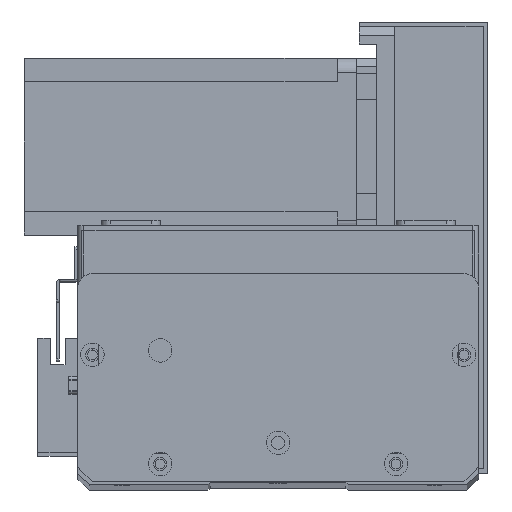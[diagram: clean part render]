
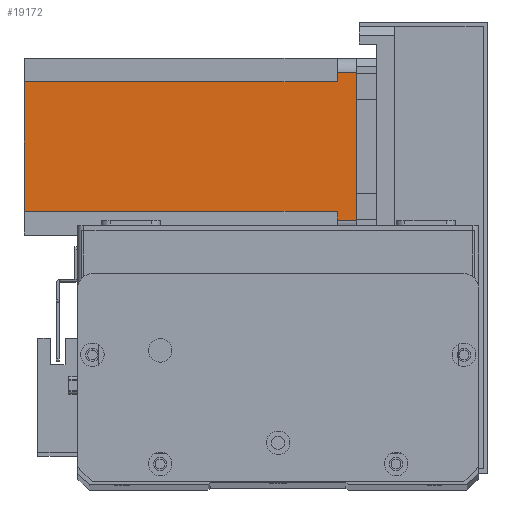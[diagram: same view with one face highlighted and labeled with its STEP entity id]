
A CAD part, top view. The second image highlights one B-rep face of the part: STEP entity #19172.
In plain terms, the highlighted planar face has unit normal (0, 0, 1) as drawn and (0, 1, 0) by its records, which use the part's own axes.
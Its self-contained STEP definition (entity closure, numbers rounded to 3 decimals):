
#778 = CARTESIAN_POINT ( 'NONE',  ( 52., 60., -112.5 ) ) ;
#785 = LINE ( 'NONE', #19932, #12405 ) ;
#1277 = CARTESIAN_POINT ( 'NONE',  ( 52., 60., -112.5 ) ) ;
#1285 = VECTOR ( 'NONE', #23547, 1000. ) ;
#1522 = LINE ( 'NONE', #16792, #24847 ) ;
#1685 = CARTESIAN_POINT ( 'NONE',  ( 0., 60., -112.5 ) ) ;
#1970 = VERTEX_POINT ( 'NONE', #23404 ) ;
#3415 = VECTOR ( 'NONE', #16300, 1000. ) ;
#4113 = CARTESIAN_POINT ( 'NONE',  ( 5., 60., 0. ) ) ;
#4489 = CARTESIAN_POINT ( 'NONE',  ( 8., 60., -6.5 ) ) ;
#4689 = FACE_OUTER_BOUND ( 'NONE', #8267, .T. ) ;
#4745 = DIRECTION ( 'NONE',  ( -1., 0., 0. ) ) ;
#4830 = DIRECTION ( 'NONE',  ( 0., 0., 1. ) ) ;
#5355 = VECTOR ( 'NONE', #25854, 1000. ) ;
#5660 = EDGE_CURVE ( 'NONE', #21327, #1970, #29088, .T. ) ;
#6077 = EDGE_CURVE ( 'NONE', #23201, #1970, #7553, .T. ) ;
#7065 = EDGE_CURVE ( 'NONE', #7070, #23201, #16237, .T. ) ;
#7070 = VERTEX_POINT ( 'NONE', #778 ) ;
#7462 = EDGE_CURVE ( 'NONE', #7070, #11227, #11042, .T. ) ;
#7553 = LINE ( 'NONE', #25766, #1285 ) ;
#7823 = EDGE_CURVE ( 'NONE', #27442, #11227, #785, .T. ) ;
#8259 = EDGE_CURVE ( 'NONE', #27442, #12354, #1522, .T. ) ;
#8267 = EDGE_LOOP ( 'NONE', ( #15913, #19734, #21664, #23371, #23998, #25384, #26997, #28492 ) ) ;
#8619 = VERTEX_POINT ( 'NONE', #4113 ) ;
#8693 = VECTOR ( 'NONE', #23370, 1000. ) ;
#9232 = EDGE_CURVE ( 'NONE', #12354, #8619, #19580, .T. ) ;
#9457 = CARTESIAN_POINT ( 'NONE',  ( 0., 60., -112.5 ) ) ;
#11042 = LINE ( 'NONE', #1685, #22850 ) ;
#11227 = VERTEX_POINT ( 'NONE', #13004 ) ;
#12354 = VERTEX_POINT ( 'NONE', #25578 ) ;
#12405 = VECTOR ( 'NONE', #19795, 1000. ) ;
#13004 = CARTESIAN_POINT ( 'NONE',  ( 8., 60., -112.5 ) ) ;
#13701 = VECTOR ( 'NONE', #20675, 1000. ) ;
#14233 = CARTESIAN_POINT ( 'NONE',  ( 55., 60., 0. ) ) ;
#14432 = CARTESIAN_POINT ( 'NONE',  ( 0., 60., 0. ) ) ;
#14611 = LINE ( 'NONE', #14432, #8693 ) ;
#15913 = ORIENTED_EDGE ( 'NONE', *, *, #26625, .F. ) ;
#15947 = DIRECTION ( 'NONE',  ( -1., 0., 0. ) ) ;
#16140 = PLANE ( 'NONE',  #28967 ) ;
#16237 = LINE ( 'NONE', #1277, #3415 ) ;
#16300 = DIRECTION ( 'NONE',  ( 0., 0., 1. ) ) ;
#16792 = CARTESIAN_POINT ( 'NONE',  ( 8., 60., -6.5 ) ) ;
#18365 = DIRECTION ( 'NONE',  ( 0., 1., 0. ) ) ;
#19172 = ADVANCED_FACE ( 'NONE', ( #4689 ), #16140, .T. ) ;
#19580 = LINE ( 'NONE', #20779, #13701 ) ;
#19734 = ORIENTED_EDGE ( 'NONE', *, *, #5660, .T. ) ;
#19795 = DIRECTION ( 'NONE',  ( 0., 0., -1. ) ) ;
#19932 = CARTESIAN_POINT ( 'NONE',  ( 8., 60., -112.5 ) ) ;
#20675 = DIRECTION ( 'NONE',  ( 0., 0., 1. ) ) ;
#20779 = CARTESIAN_POINT ( 'NONE',  ( 5., 60., -112.5 ) ) ;
#21327 = VERTEX_POINT ( 'NONE', #14233 ) ;
#21664 = ORIENTED_EDGE ( 'NONE', *, *, #6077, .F. ) ;
#22850 = VECTOR ( 'NONE', #4745, 1000. ) ;
#23201 = VERTEX_POINT ( 'NONE', #26406 ) ;
#23370 = DIRECTION ( 'NONE',  ( -1., 0., 0. ) ) ;
#23371 = ORIENTED_EDGE ( 'NONE', *, *, #7065, .F. ) ;
#23404 = CARTESIAN_POINT ( 'NONE',  ( 55., 60., -6.5 ) ) ;
#23547 = DIRECTION ( 'NONE',  ( 1., 0., 0. ) ) ;
#23998 = ORIENTED_EDGE ( 'NONE', *, *, #7462, .T. ) ;
#24847 = VECTOR ( 'NONE', #15947, 1000. ) ;
#25384 = ORIENTED_EDGE ( 'NONE', *, *, #7823, .F. ) ;
#25578 = CARTESIAN_POINT ( 'NONE',  ( 5., 60., -6.5 ) ) ;
#25766 = CARTESIAN_POINT ( 'NONE',  ( 52., 60., -6.5 ) ) ;
#25854 = DIRECTION ( 'NONE',  ( 0., 0., -1. ) ) ;
#26406 = CARTESIAN_POINT ( 'NONE',  ( 52., 60., -6.5 ) ) ;
#26426 = CARTESIAN_POINT ( 'NONE',  ( 55., 60., -112.5 ) ) ;
#26625 = EDGE_CURVE ( 'NONE', #21327, #8619, #14611, .T. ) ;
#26997 = ORIENTED_EDGE ( 'NONE', *, *, #8259, .T. ) ;
#27442 = VERTEX_POINT ( 'NONE', #4489 ) ;
#28492 = ORIENTED_EDGE ( 'NONE', *, *, #9232, .T. ) ;
#28967 = AXIS2_PLACEMENT_3D ( 'NONE', #9457, #18365, #4830 ) ;
#29088 = LINE ( 'NONE', #26426, #5355 ) ;
